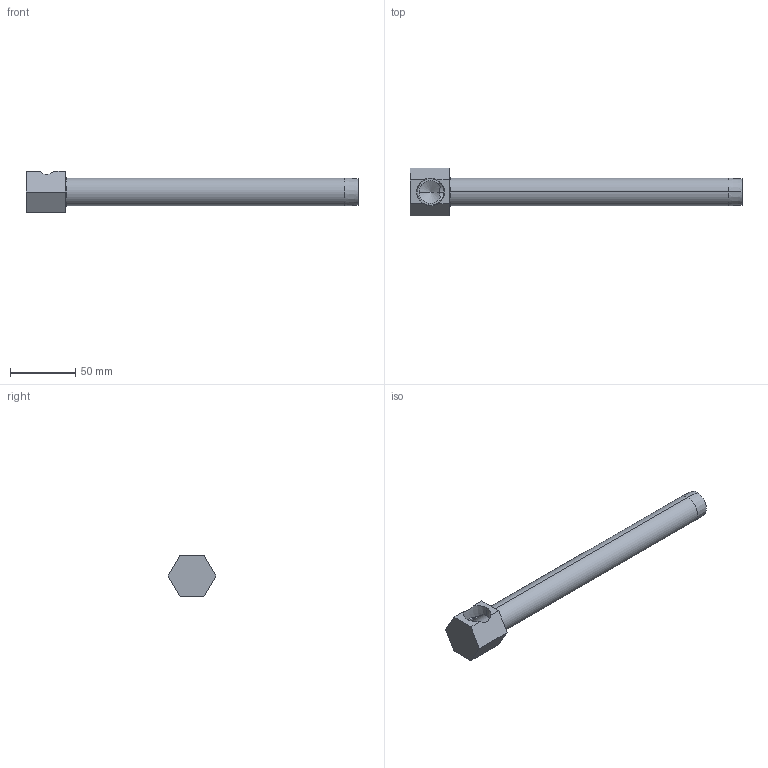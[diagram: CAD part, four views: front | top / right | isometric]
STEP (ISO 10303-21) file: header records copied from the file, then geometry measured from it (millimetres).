
FILE_DESCRIPTION (( 'STEP AP203' ), '1' );
FILE_NAME ('HELB1212L10.step', '2020-08-19T04:30:36', ( 'Microsoft Corporation' ), ( 'MS' ), 'SwSTEP 2.0', 'SolidWorks 2018', '' );
FILE_SCHEMA (( 'CONFIG_CONTROL_DESIGN' ));
Length unit declared in the file: inch
Products named in the file (1): HELB1212L10
Bounding box: 254 x 36.66 x 31.75 mm (x, y, z)
Volume: 43886.5 mm3; surface area: 33519.8 mm2
Topology: 1 solids, 1 shells, 25 faces, 67 edges, 42 vertices
Faces by surface type: plane 11, cone 6, cylinder 6, torus 2
Entity records: 968 total; most frequent: CARTESIAN_POINT 265, DIRECTION 133, ORIENTED_EDGE 130, EDGE_CURVE 65, AXIS2_PLACEMENT_3D 50, VERTEX_POINT 42, LINE 33, VECTOR 33
